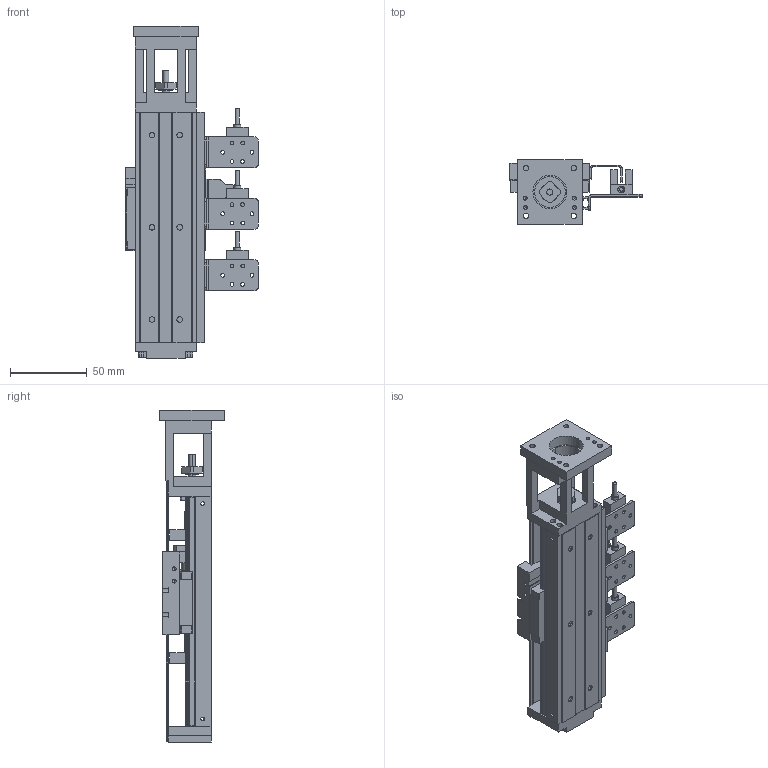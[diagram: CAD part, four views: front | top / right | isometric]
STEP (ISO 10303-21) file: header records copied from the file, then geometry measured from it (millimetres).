
FILE_DESCRIPTION (( 'STEP AP203' ), '1' );
FILE_NAME ('HKK4001C-150A1F3S2-3D.STEP', '2019-11-01T06:56:49', ( '微软中国' ), ( 'Microsoft' ), 'SwSTEP 2.0', 'SolidWorks 2016', '' );
FILE_SCHEMA (( 'CONFIG_CONTROL_DESIGN' ));
Length unit declared in the file: millimetre
Products named in the file (3): 錨璃7; 錨璃8; HKK4001C-150A1F3S2-3D
Assembly tree (2 placements, depth 2):
  HKK4001C-150A1F3S2-3D
    錨璃7
    錨璃8
Bounding box: 86 x 42 x 216 mm (x, y, z)
Volume: 148296.7 mm3; surface area: 91095.3 mm2
Topology: 2 solids, 2 shells, 1176 faces, 3174 edges, 1988 vertices
Faces by surface type: cylinder 560, plane 466, cone 150
Entity records: 37465 total; most frequent: CARTESIAN_POINT 6969, DIRECTION 6552, ORIENTED_EDGE 6156, EDGE_CURVE 3078, AXIS2_PLACEMENT_3D 2375, VERTEX_POINT 1988, VECTOR 1802, LINE 1802
